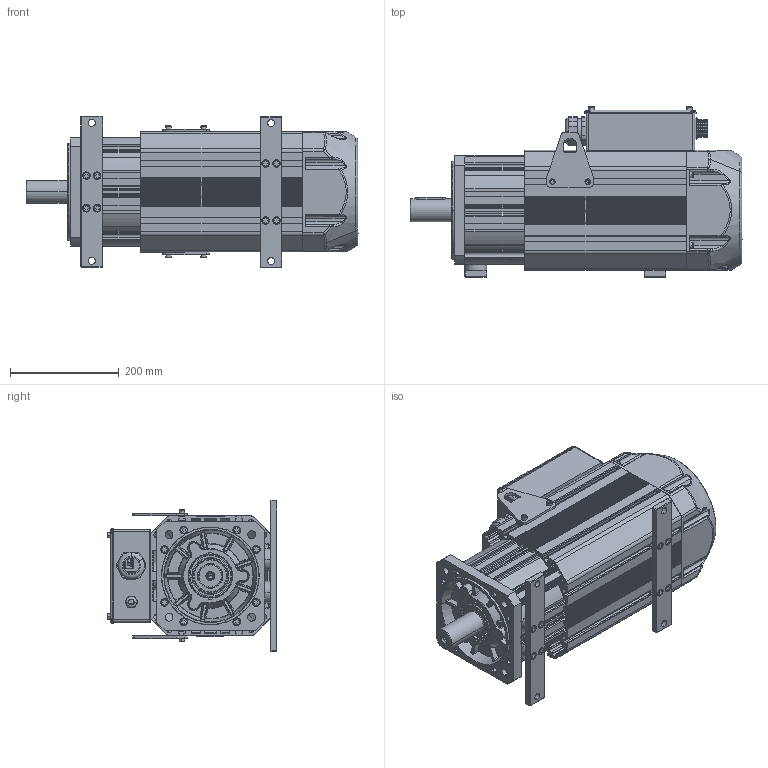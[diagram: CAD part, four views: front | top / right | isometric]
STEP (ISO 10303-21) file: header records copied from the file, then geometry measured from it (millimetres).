
FILE_DESCRIPTION((''),'2;1');
FILE_NAME('120NBZ__SW0001','2025-08-25T08:54:42',('0109502'),(''),'CREO PARAMETRIC BY PTC INC, 2019080','CREO PARAMETRIC BY PTC INC, 2019080','');
FILE_SCHEMA(('CONFIG_CONTROL_DESIGN'));
Products named in the file (1): 120NBZ__SW0001
Bounding box: 611 x 312.5 x 278.25 mm (x, y, z)
Surface area: 1853188.4 mm2 (no closed solid volume)
Topology: 0 solids, 204 shells, 3224 faces, 11372 edges, 8121 vertices
Faces by surface type: plane 1465, cylinder 1103, torus 254, cone 188, bspline 185, sphere 29
Entity records: 135908 total; most frequent: CARTESIAN_POINT 38670, DIRECTION 20676, ORIENTED_EDGE 18386, EDGE_CURVE 11352, VERTEX_POINT 8121, AXIS2_PLACEMENT_3D 7084, VECTOR 6508, LINE 6508
